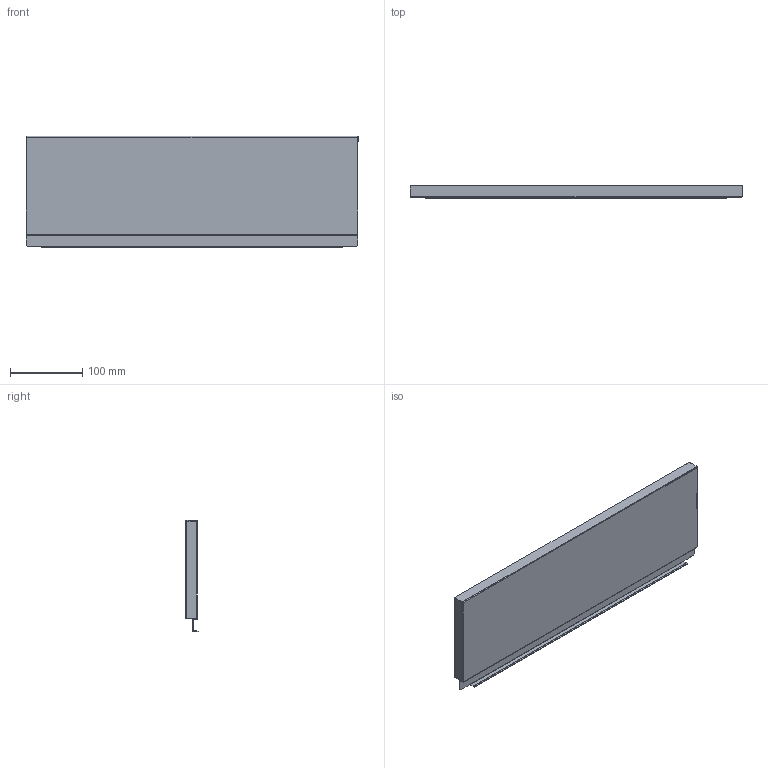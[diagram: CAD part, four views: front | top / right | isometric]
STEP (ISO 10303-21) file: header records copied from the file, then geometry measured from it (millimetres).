
FILE_DESCRIPTION (( 'STEP AP214' ), '1' );
FILE_NAME ('_STRW_H154_KAB_550.step', '2010-08-24T14:40:35', ( 'grass' ), ( '' ), 'SwSTEP 2.0', 'SolidWorks 2009', '' );
FILE_SCHEMA (( 'AUTOMOTIVE_DESIGN' ));
Length unit declared in the file: millimetre
Products named in the file (1): _STRW_H154_KAB_550
Bounding box: 460 x 17 x 154.14 mm (x, y, z)
Volume: 70688.8 mm3; surface area: 177826.3 mm2
Topology: 1 solids, 1 shells, 76 faces, 214 edges, 140 vertices
Faces by surface type: plane 54, cylinder 22
Entity records: 2472 total; most frequent: CARTESIAN_POINT 431, ORIENTED_EDGE 428, DIRECTION 412, EDGE_CURVE 214, LINE 170, VECTOR 170, VERTEX_POINT 140, AXIS2_PLACEMENT_3D 121
